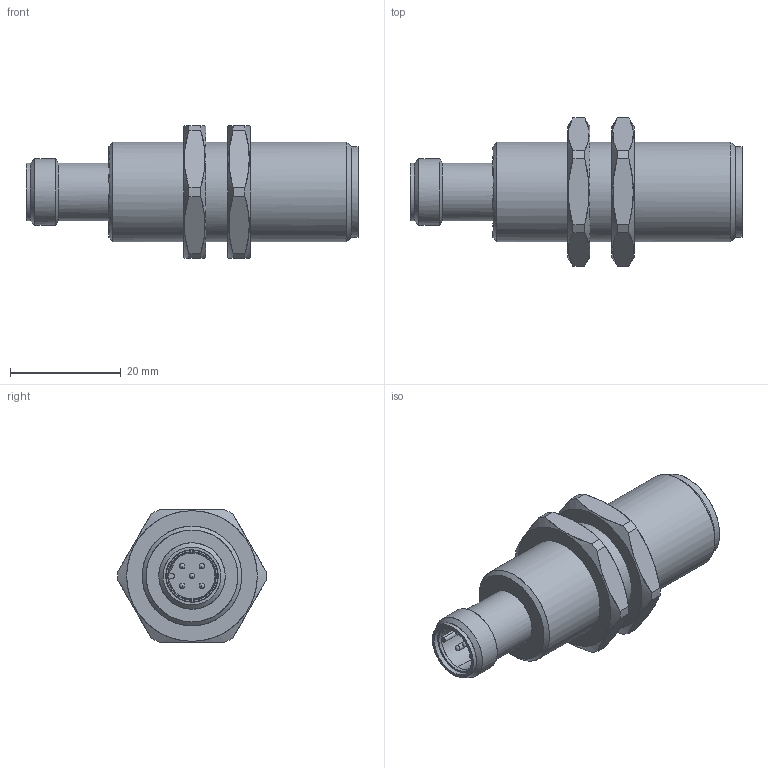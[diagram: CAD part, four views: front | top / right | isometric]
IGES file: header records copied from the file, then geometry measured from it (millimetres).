
Start section: C
Global section: file name: IR18M.D07L-N60.GP1I.8VF.igs; native system: By Siemens PLM Incorporated; preprocessor: XPlus GENERIC/IGES 23.0.61; author: Author; organization: Title; date: 20220603.111515; units: millimetre
Bounding box: 60 x 26.8 x 24 mm (x, y, z)
Surface area: 6407.4 mm2 (no closed solid volume)
Topology: 0 solids, 0 shells, 83 faces, 481 edges, 476 vertices
Faces by surface type: bspline 83
